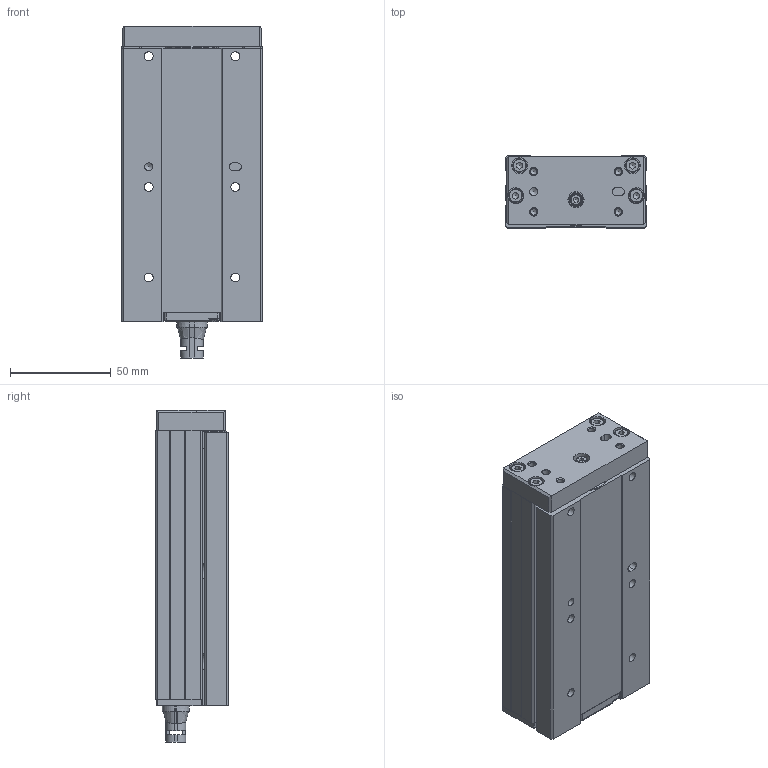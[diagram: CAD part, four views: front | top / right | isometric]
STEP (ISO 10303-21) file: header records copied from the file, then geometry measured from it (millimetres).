
FILE_DESCRIPTION((''),'2;1');
FILE_NAME('C:\Users\RD_15\Desktop\DMG25-75.stp','2020-10-20T10:38:11',('RD_15'),(''),'Autodesk Inventor 2013','Autodesk Inventor 2013','');
FILE_SCHEMA(('AUTOMOTIVE_DESIGN { 1 0 10303 214 1 1 1 1 }'));
Length unit declared in the file: millimetre
Products named in the file (57): 組合9; DMG25-75本體; 零件1346; 零件1350; 零件1352; 零件1358; 零件1368; 零件1396; 零件1398; 零件1400; 零件1402; 零件1404; 零件1406; 零件1408; 零件1410; 零件1412; 零件1414; 零件1674; 零件1676; 零件1678; 零件1680; 零件1684; 零件1688; 零件1690; 零件1692; 零件1694; 零件1716; 零件1718; 零件1720; 零件1724; 零件1726; 零件1728; 零件1694_MIR; 零件1694_MIR1; 零件1694_MIR_MIR; 零件1628; 零件1630; 零件1636; 零件1638; 零件1640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
Assembly tree (56 placements, depth 2):
  組合9
    DMG25-75本體
    零件1346
    零件1350
    零件1352
    零件1358
    零件1368
    零件1396
    零件1398
    零件1400
    零件1402
    零件1404
    零件1406
    零件1408
    零件1410
    零件1412
    零件1414
    零件1674
    零件1676
    零件1678
    零件1680
    零件1684
    零件1688
    零件1690
    零件1692
    零件1694
    零件1716
    零件1718
    零件1720
    零件1724
    零件1726
    零件1728
    零件1694_MIR
    零件1694_MIR1
    零件1694_MIR_MIR
    零件1628
    零件1630
    零件1636
    零件1638
    零件1640
    零件1642
    零件1644
    零件1646
    零件1650
    零件1654
    零件1658
    零件1662
    零件1666
    零件1668
    零件1670
    零件1672
    零件1736
    零件1738
    零件1740
    零件1742
    零件1744
    零件1746
Bounding box: 70 x 36 x 165 mm (x, y, z)
Volume: 311249.6 mm3; surface area: 102568.5 mm2
Topology: 52 solids, 55 shells, 1959 faces, 5137 edges, 3312 vertices
Faces by surface type: plane 1191, cylinder 332, cone 310, torus 89, bspline 26, sphere 11
Full cylindrical faces by diameter (mm): 1.783 x6, 2 x6, 2.224 x8, 2.459 x4, 2.5 x8, 3 x15, 3.2 x2, 3.242 x12, 3.5 x5, 4 x7, 4.4 x6, 4.5 x4, 4.7 x8, 5.1 x2, 5.5 x1, 5.54 x4, 5.6 x2, 5.9 x2, 6.2 x2, 7 x6, 7.8 x6, 8 x12, 9 x1, 11 x1, 12.8 x1, 19 x1, 26 x1
Entity records: 65998 total; most frequent: CARTESIAN_POINT 16707, DIRECTION 9776, ORIENTED_EDGE 9514, EDGE_CURVE 4757, AXIS2_PLACEMENT_3D 3331, VERTEX_POINT 3233, VECTOR 3114, LINE 3114
